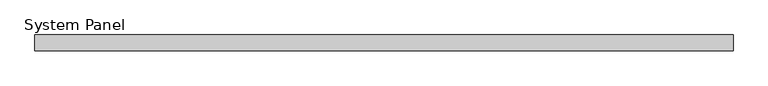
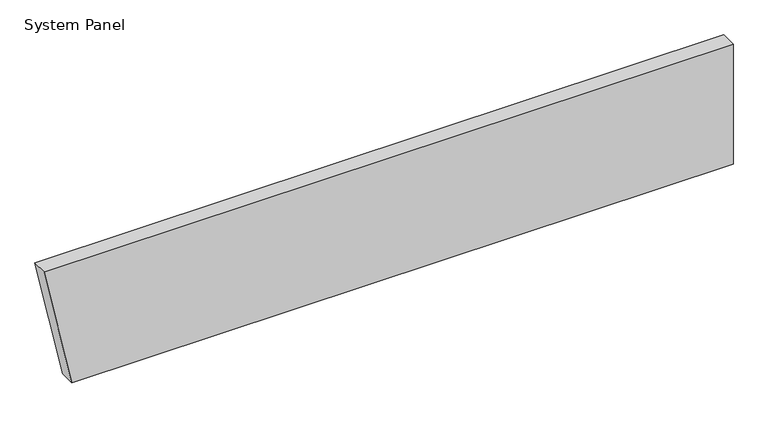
"""IFC4 building model written with IfcOpenShell, lengths in millimetres: plate geometry, System Panel : Equitilt_FlameGuard_150mm_Plain_Surfmist."""

from ifc_helpers import new_model, si_unit, frame, origin, place, context, project, spatial, polyline, outline, extrude, source, transform, mapped, element, save


def system_panel_98891a92(model_context):
    return source(origin(), model_context, "Body", "SweptSolid", [
        extrude(outline(polyline([(0.0, -2995.0), (0.0, 3255.8716619), (1200.0, 3255.8716619), (1200.0, -3255.8716619), (0.0, -2995.0)])), frame((0.0, -150.0, 0.0), z_axis=(0.0, 1.0, 0.0), x_axis=(0.0, 0.0, 1.0)), (0.0, 0.0, 1.0), 150.0),
    ])


if __name__ == "__main__":
    model = new_model("IFC4")
    model_context = context("Model", 3, world=origin())
    ifc_project = project(units=[si_unit("LENGTHUNIT", "METRE", prefix="MILLI")], contexts=[model_context])
    site = spatial("IfcSite", under=ifc_project)
    building = spatial("IfcBuilding", under=site)
    placement = place(None, origin())
    system_panel_shape = system_panel_98891a92(model_context)
    element("IfcPlate", 1, ObjectType="System Panel : Equitilt_FlameGuard_150mm_Plain_Surfmist", at=placement, inside=building, context=model_context, shape_type="MappedRepresentation", body=[
        mapped(system_panel_shape, transform((0.0, 0.0, 0.0), x_axis=(1.0, 0.0, 0.0), y_axis=(0.0, 1.0, 0.0), z_axis=(0.0, 0.0, 1.0))),
    ])
    save(model, "model.ifc")
